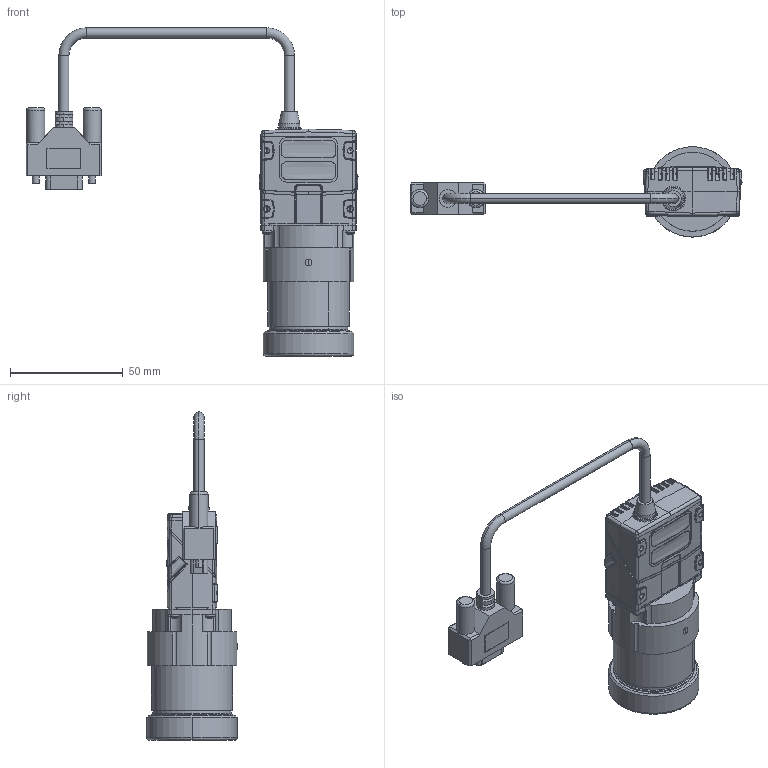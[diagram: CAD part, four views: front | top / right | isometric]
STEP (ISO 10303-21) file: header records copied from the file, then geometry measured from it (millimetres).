
FILE_DESCRIPTION (( 'STEP AP214' ), '1' );
FILE_NAME ('DM15X straight C-mount IP65.STEP', '2017-01-27T08:35:57', ( '' ), ( '' ), 'SwSTEP 2.0', 'SolidWorks 2016', '' );
FILE_SCHEMA (( 'AUTOMOTIVE_DESIGN' ));
Length unit declared in the file: millimetre
Products named in the file (1): DM15X straight C-mount IP65
Bounding box: 147.24 x 40 x 145.57 mm (x, y, z)
Volume: 113752.1 mm3; surface area: 24034.4 mm2
Topology: 1 solids, 1 shells, 1873 faces, 4868 edges, 3057 vertices
Faces by surface type: bspline 646, plane 556, cylinder 445, cone 120, torus 82, sphere 24
Entity records: 76469 total; most frequent: CARTESIAN_POINT 36326, ORIENTED_EDGE 9704, DIRECTION 6487, EDGE_CURVE 4852, VERTEX_POINT 3057, AXIS2_PLACEMENT_3D 2464, EDGE_LOOP 1969, ADVANCED_FACE 1873
